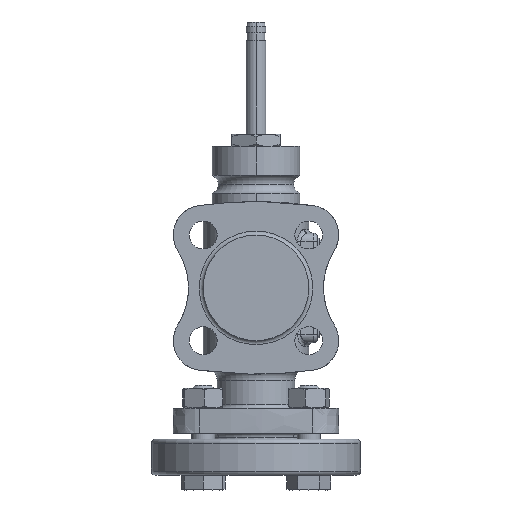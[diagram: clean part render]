
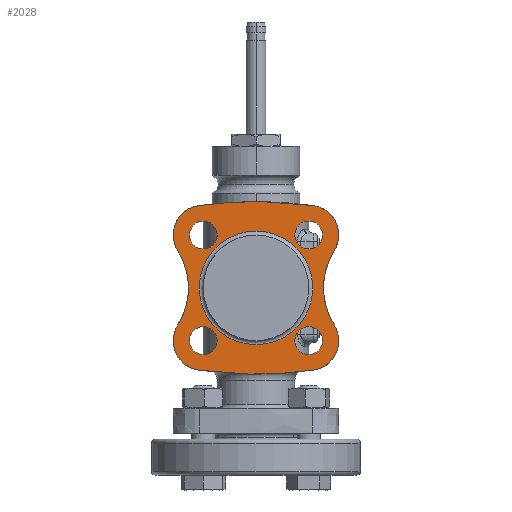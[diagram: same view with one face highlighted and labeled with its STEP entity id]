
A CAD part, left-side view. The second image highlights one B-rep face of the part: STEP entity #2028.
In plain terms, the highlighted planar face has unit normal (-1, 0, 0).
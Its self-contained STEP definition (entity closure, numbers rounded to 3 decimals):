
#2028=ADVANCED_FACE('',(#2704,#2705,#2706,#2707,#2708,#2709),#2348,.T.);
#2348=PLANE('',#6004);
#2480=B_SPLINE_CURVE_WITH_KNOTS('',3,(#8402,#8403,#8404,#8405),
 .UNSPECIFIED.,.F.,.F.,(4,4),(0.,1.),.UNSPECIFIED.);
#2481=B_SPLINE_CURVE_WITH_KNOTS('',3,(#8408,#8409,#8410,#8411,#8412,#8413),
 .UNSPECIFIED.,.F.,.F.,(4,2,4),(0.,0.5,1.),.UNSPECIFIED.);
#2482=B_SPLINE_CURVE_WITH_KNOTS('',3,(#8415,#8416,#8417,#8418,#8419,#8420,
#8421,#8422,#8423,#8424),.UNSPECIFIED.,.F.,.F.,(4,2,2,2,4),(0.,0.25,0.5,
0.75,1.),.UNSPECIFIED.);
#2483=B_SPLINE_CURVE_WITH_KNOTS('',3,(#8426,#8427,#8428,#8429,#8430,#8431),
 .UNSPECIFIED.,.F.,.F.,(4,2,4),(0.,0.5,1.),.UNSPECIFIED.);
#2484=B_SPLINE_CURVE_WITH_KNOTS('',3,(#8433,#8434,#8435,#8436),
 .UNSPECIFIED.,.F.,.F.,(4,4),(0.,1.),.UNSPECIFIED.);
#2485=B_SPLINE_CURVE_WITH_KNOTS('',3,(#8438,#8439,#8440,#8441,#8442,#8443),
 .UNSPECIFIED.,.F.,.F.,(4,2,4),(0.,0.5,1.),.UNSPECIFIED.);
#2486=B_SPLINE_CURVE_WITH_KNOTS('',3,(#8445,#8446,#8447,#8448,#8449,#8450,
#8451,#8452,#8453,#8454),.UNSPECIFIED.,.F.,.F.,(4,2,2,2,4),(0.,0.25,0.5,
0.75,1.),.UNSPECIFIED.);
#2487=B_SPLINE_CURVE_WITH_KNOTS('',3,(#8456,#8457,#8458,#8459,#8460,#8461),
 .UNSPECIFIED.,.F.,.F.,(4,2,4),(0.,0.5,1.),.UNSPECIFIED.);
#2704=FACE_BOUND('',#2907,.T.);
#2705=FACE_BOUND('',#2908,.T.);
#2706=FACE_BOUND('',#2909,.T.);
#2707=FACE_BOUND('',#2910,.T.);
#2708=FACE_BOUND('',#2911,.T.);
#2709=FACE_BOUND('',#2912,.T.);
#2907=EDGE_LOOP('',(#3378));
#2908=EDGE_LOOP('',(#3379));
#2909=EDGE_LOOP('',(#3380));
#2910=EDGE_LOOP('',(#3381));
#2911=EDGE_LOOP('',(#3382));
#2912=EDGE_LOOP('',(#3383,#3384,#3385,#3386,#3387,#3388,#3389,#3390));
#3378=ORIENTED_EDGE('',*,*,#5108,.F.);
#3379=ORIENTED_EDGE('',*,*,#5109,.F.);
#3380=ORIENTED_EDGE('',*,*,#5110,.F.);
#3381=ORIENTED_EDGE('',*,*,#5111,.F.);
#3382=ORIENTED_EDGE('',*,*,#5112,.T.);
#3383=ORIENTED_EDGE('',*,*,#5113,.T.);
#3384=ORIENTED_EDGE('',*,*,#5114,.T.);
#3385=ORIENTED_EDGE('',*,*,#5115,.T.);
#3386=ORIENTED_EDGE('',*,*,#5116,.T.);
#3387=ORIENTED_EDGE('',*,*,#5117,.T.);
#3388=ORIENTED_EDGE('',*,*,#5118,.T.);
#3389=ORIENTED_EDGE('',*,*,#5119,.T.);
#3390=ORIENTED_EDGE('',*,*,#5120,.T.);
#4682=VERTEX_POINT('',#8393);
#4683=VERTEX_POINT('',#8395);
#4684=VERTEX_POINT('',#8397);
#4685=VERTEX_POINT('',#8399);
#4686=VERTEX_POINT('',#8401);
#4687=VERTEX_POINT('',#8406);
#4688=VERTEX_POINT('',#8407);
#4689=VERTEX_POINT('',#8414);
#4690=VERTEX_POINT('',#8425);
#4691=VERTEX_POINT('',#8432);
#4692=VERTEX_POINT('',#8437);
#4693=VERTEX_POINT('',#8444);
#4694=VERTEX_POINT('',#8455);
#5108=EDGE_CURVE('',#4682,#4682,#5728,.T.);
#5109=EDGE_CURVE('',#4683,#4683,#5729,.T.);
#5110=EDGE_CURVE('',#4684,#4684,#5730,.T.);
#5111=EDGE_CURVE('',#4685,#4685,#5731,.T.);
#5112=EDGE_CURVE('',#4686,#4686,#5732,.T.);
#5113=EDGE_CURVE('',#4687,#4688,#2480,.T.);
#5114=EDGE_CURVE('',#4688,#4689,#2481,.T.);
#5115=EDGE_CURVE('',#4689,#4690,#2482,.T.);
#5116=EDGE_CURVE('',#4690,#4691,#2483,.T.);
#5117=EDGE_CURVE('',#4691,#4692,#2484,.T.);
#5118=EDGE_CURVE('',#4692,#4693,#2485,.T.);
#5119=EDGE_CURVE('',#4693,#4694,#2486,.T.);
#5120=EDGE_CURVE('',#4694,#4687,#2487,.T.);
#5728=CIRCLE('',#5999,7.);
#5729=CIRCLE('',#6000,7.);
#5730=CIRCLE('',#6001,7.);
#5731=CIRCLE('',#6002,7.);
#5732=CIRCLE('',#6003,28.5);
#5999=AXIS2_PLACEMENT_3D('',#8392,#6579,#6580);
#6000=AXIS2_PLACEMENT_3D('',#8394,#6581,#6582);
#6001=AXIS2_PLACEMENT_3D('',#8396,#6583,#6584);
#6002=AXIS2_PLACEMENT_3D('',#8398,#6585,#6586);
#6003=AXIS2_PLACEMENT_3D('',#8400,#6587,#6588);
#6004=AXIS2_PLACEMENT_3D('',#8462,#6589,#6590);
#6579=DIRECTION('',(-1.,0.,0.));
#6580=DIRECTION('',(0.,0.,1.));
#6581=DIRECTION('',(-1.,0.,0.));
#6582=DIRECTION('',(0.,-1.,0.));
#6583=DIRECTION('',(-1.,0.,0.));
#6584=DIRECTION('',(0.,0.,-1.));
#6585=DIRECTION('',(-1.,0.,0.));
#6586=DIRECTION('',(0.,1.,0.));
#6587=DIRECTION('',(1.,0.,0.));
#6588=DIRECTION('',(0.,-1.,0.));
#6589=DIRECTION('',(-1.,0.,0.));
#6590=DIRECTION('',(0.,0.,-1.));
#8392=CARTESIAN_POINT('',(117.,26.517,26.517));
#8393=CARTESIAN_POINT('',(117.,26.517,33.517));
#8394=CARTESIAN_POINT('',(117.,-26.517,26.517));
#8395=CARTESIAN_POINT('',(117.,-33.517,26.517));
#8396=CARTESIAN_POINT('',(117.,-26.517,-26.517));
#8397=CARTESIAN_POINT('',(117.,-26.517,-33.517));
#8398=CARTESIAN_POINT('',(117.,26.517,-26.517));
#8399=CARTESIAN_POINT('',(117.,33.517,-26.517));
#8400=CARTESIAN_POINT('',(117.,0.,0.));
#8401=CARTESIAN_POINT('',(117.,-28.5,0.));
#8402=CARTESIAN_POINT('',(117.,-28.556,41.377));
#8403=CARTESIAN_POINT('',(117.,-9.619,43.976));
#8404=CARTESIAN_POINT('',(117.,9.619,43.976));
#8405=CARTESIAN_POINT('',(117.,28.556,41.377));
#8406=CARTESIAN_POINT('',(117.,-28.556,41.377));
#8407=CARTESIAN_POINT('',(117.,28.556,41.377));
#8408=CARTESIAN_POINT('',(117.,28.556,41.377));
#8409=CARTESIAN_POINT('',(117.,33.539,40.693));
#8410=CARTESIAN_POINT('',(117.,37.972,37.423));
#8411=CARTESIAN_POINT('',(117.,42.228,28.336));
#8412=CARTESIAN_POINT('',(117.,41.901,22.826));
#8413=CARTESIAN_POINT('',(117.,39.233,18.562));
#8414=CARTESIAN_POINT('',(117.,39.233,18.562));
#8415=CARTESIAN_POINT('',(117.,39.233,18.562));
#8416=CARTESIAN_POINT('',(117.,37.489,15.773));
#8417=CARTESIAN_POINT('',(117.,36.171,12.809));
#8418=CARTESIAN_POINT('',(117.,34.368,6.538));
#8419=CARTESIAN_POINT('',(117.,33.908,3.271));
#8420=CARTESIAN_POINT('',(117.,33.904,-3.223));
#8421=CARTESIAN_POINT('',(117.,34.365,-6.516));
#8422=CARTESIAN_POINT('',(117.,36.15,-12.751));
#8423=CARTESIAN_POINT('',(117.,37.489,-15.773));
#8424=CARTESIAN_POINT('',(117.,39.233,-18.562));
#8425=CARTESIAN_POINT('',(117.,39.233,-18.562));
#8426=CARTESIAN_POINT('',(117.,39.233,-18.562));
#8427=CARTESIAN_POINT('',(117.,41.901,-22.826));
#8428=CARTESIAN_POINT('',(117.,42.23,-28.324));
#8429=CARTESIAN_POINT('',(117.,37.98,-37.414));
#8430=CARTESIAN_POINT('',(117.,33.539,-40.693));
#8431=CARTESIAN_POINT('',(117.,28.556,-41.377));
#8432=CARTESIAN_POINT('',(117.,28.556,-41.377));
#8433=CARTESIAN_POINT('',(117.,28.556,-41.377));
#8434=CARTESIAN_POINT('',(117.,9.619,-43.976));
#8435=CARTESIAN_POINT('',(117.,-9.619,-43.976));
#8436=CARTESIAN_POINT('',(117.,-28.556,-41.377));
#8437=CARTESIAN_POINT('',(117.,-28.556,-41.377));
#8438=CARTESIAN_POINT('',(117.,-28.556,-41.377));
#8439=CARTESIAN_POINT('',(117.,-33.54,-40.693));
#8440=CARTESIAN_POINT('',(117.,-37.972,-37.422));
#8441=CARTESIAN_POINT('',(117.,-42.229,-28.335));
#8442=CARTESIAN_POINT('',(117.,-41.901,-22.826));
#8443=CARTESIAN_POINT('',(117.,-39.233,-18.562));
#8444=CARTESIAN_POINT('',(117.,-39.233,-18.562));
#8445=CARTESIAN_POINT('',(117.,-39.233,-18.562));
#8446=CARTESIAN_POINT('',(117.,-37.489,-15.773));
#8447=CARTESIAN_POINT('',(117.,-36.171,-12.809));
#8448=CARTESIAN_POINT('',(117.,-34.368,-6.538));
#8449=CARTESIAN_POINT('',(117.,-33.908,-3.271));
#8450=CARTESIAN_POINT('',(117.,-33.904,3.223));
#8451=CARTESIAN_POINT('',(117.,-34.365,6.516));
#8452=CARTESIAN_POINT('',(117.,-36.15,12.751));
#8453=CARTESIAN_POINT('',(117.,-37.489,15.773));
#8454=CARTESIAN_POINT('',(117.,-39.233,18.562));
#8455=CARTESIAN_POINT('',(117.,-39.233,18.562));
#8456=CARTESIAN_POINT('',(117.,-39.233,18.562));
#8457=CARTESIAN_POINT('',(117.,-41.901,22.826));
#8458=CARTESIAN_POINT('',(117.,-42.23,28.325));
#8459=CARTESIAN_POINT('',(117.,-37.979,37.415));
#8460=CARTESIAN_POINT('',(117.,-33.539,40.693));
#8461=CARTESIAN_POINT('',(117.,-28.556,41.377));
#8462=CARTESIAN_POINT('',(117.,0.,0.));
